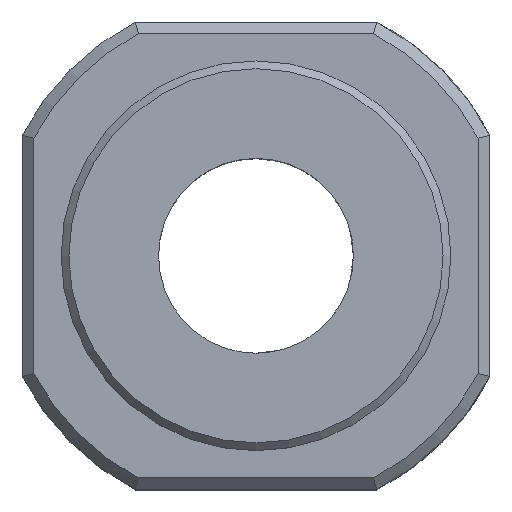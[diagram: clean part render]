
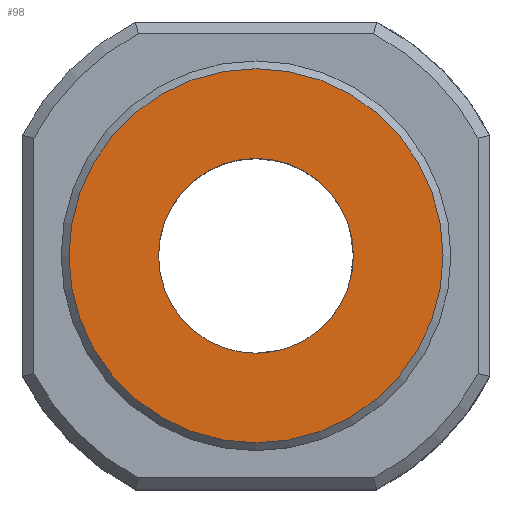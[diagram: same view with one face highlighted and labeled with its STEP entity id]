
A CAD part, top view. The second image highlights one B-rep face of the part: STEP entity #98.
In plain terms, the highlighted planar face has unit normal (0, 0, 1).
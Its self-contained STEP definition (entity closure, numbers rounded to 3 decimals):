
#98=ADVANCED_FACE('',(#211,#212),#213,.T.);
#211=FACE_OUTER_BOUND('',#404,.T.);
#212=FACE_BOUND('',#405,.T.);
#213=PLANE('',#406);
#404=EDGE_LOOP('',(#597));
#405=EDGE_LOOP('',(#598));
#406=AXIS2_PLACEMENT_3D('',#599,#600,#601);
#597=ORIENTED_EDGE('',*,*,#744,.T.);
#598=ORIENTED_EDGE('',*,*,#762,.T.);
#599=CARTESIAN_POINT('',(22.177,-7.456,12.018));
#600=DIRECTION('',(0.0,0.0,1.0));
#601=DIRECTION('',(1.0,0.0,0.0));
#744=EDGE_CURVE('',#863,#863,#864,.T.);
#762=EDGE_CURVE('',#891,#891,#892,.T.);
#863=VERTEX_POINT('',#1096);
#864=CIRCLE('',#1097,4.8);
#891=VERTEX_POINT('',#1247);
#892=CIRCLE('',#1248,2.5);
#1096=CARTESIAN_POINT('',(26.977,-7.456,12.018));
#1097=AXIS2_PLACEMENT_3D('',#1381,#1382,#1383);
#1247=CARTESIAN_POINT('',(19.677,-7.456,12.018));
#1248=AXIS2_PLACEMENT_3D('',#1389,#1390,#1391);
#1381=CARTESIAN_POINT('',(22.177,-7.456,12.018));
#1382=DIRECTION('',(0.0,0.0,1.0));
#1383=DIRECTION('',(1.0,0.0,0.0));
#1389=CARTESIAN_POINT('',(22.177,-7.456,12.018));
#1390=DIRECTION('',(0.0,0.0,-1.0));
#1391=DIRECTION('',(-1.0,0.0,0.0));
